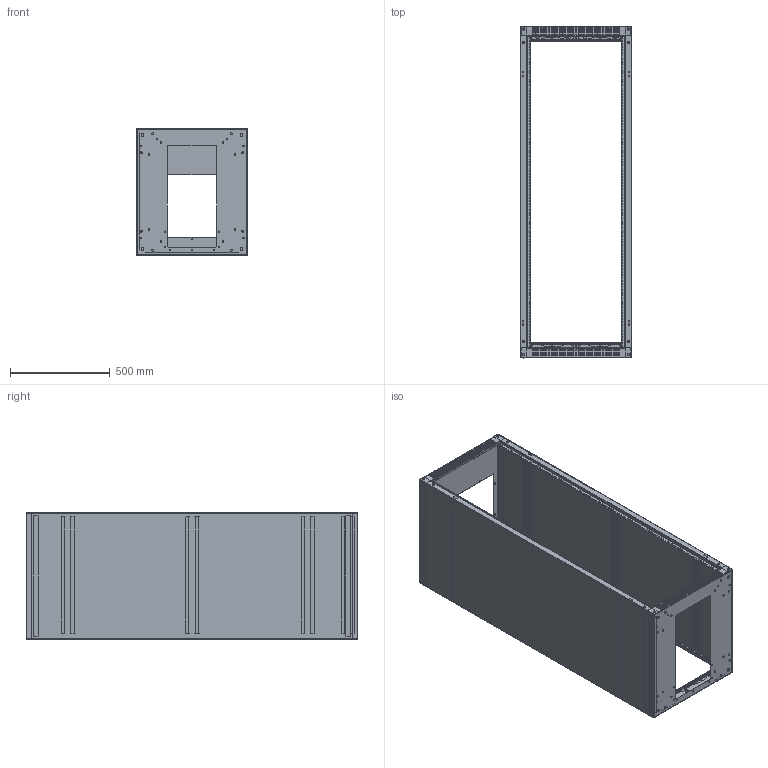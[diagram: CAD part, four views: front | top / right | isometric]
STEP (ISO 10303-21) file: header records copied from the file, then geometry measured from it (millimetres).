
FILE_DESCRIPTION((''),'2;1');
FILE_NAME('AERK-3525LRD_ASM','2016-07-29T',('rrenderos'),('Middle Atlantic Products'),'PRO/ENGINEER BY PARAMETRIC TECHNOLOGY CORPORATION, 2014310','PRO/ENGINEER BY PARAMETRIC TECHNOLOGY CORPORATION, 2014310','');
FILE_SCHEMA(('CONFIG_CONTROL_DESIGN'));
Length unit declared in the file: inch
Products named in the file (15): PERK25B_ASM; BE3525SL; BERRB25; BERK25LWB; PE3525SL_ASM; BE3525SR; PE3525SR_ASM; BERK25T; PERK25T_ASM; MERK-3525_ASM; BERK25B; PERR35; PKEKOPH; PKEKOPUHFH; AERK-3525LRD_ASM
Assembly tree (26 placements, depth 4):
  AERK-3525LRD_ASM
    MERK-3525_ASM
      PERK25B_ASM
      PE3525SL_ASM
        BE3525SL
        BERRB25  x4
        BERK25LWB  x2
      PE3525SR_ASM
        BE3525SR
        BERRB25  x3
        BERK25LWB  x2
      PERK25T_ASM
        BERK25T
    BERK25B
    PERR35  x2
    PKEKOPH  x2
    PKEKOPUHFH  x2
Bounding box: 558.8 x 1660.47 x 635 mm (x, y, z)
Volume: 6354602.2 mm3; surface area: 7978941.7 mm2
Topology: 33 solids, 33 shells, 2448 faces, 6378 edges, 3988 vertices
Faces by surface type: plane 1206, cylinder 1182, bspline 60
Entity records: 50959 total; most frequent: CARTESIAN_POINT 10080, DIRECTION 8684, ORIENTED_EDGE 8180, EDGE_CURVE 4090, AXIS2_PLACEMENT_3D 3131, VERTEX_POINT 2604, VECTOR 2422, LINE 2422
